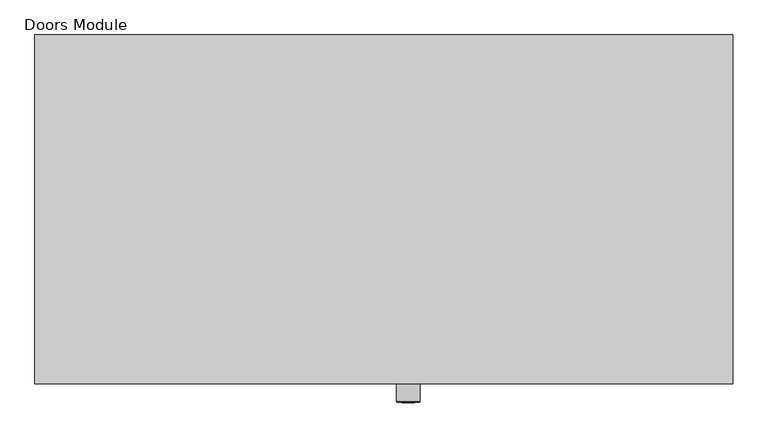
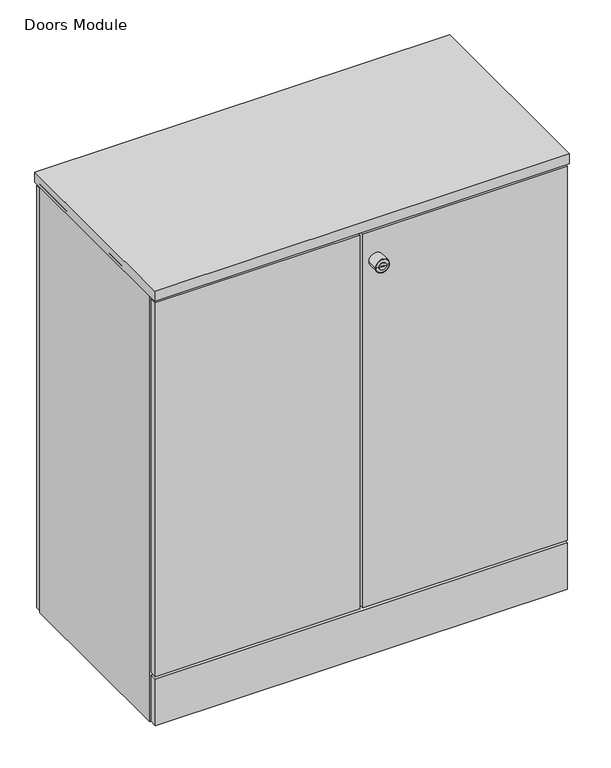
"""IFC4 building model written with IfcOpenShell, lengths in millimetres: furniture geometry, Furniture_Storage_Spacestor_SignatureStoragewall : Doors Module."""

from ifc_helpers import new_model, si_unit, point, frame, origin, origin_with_axes, place, context, project, spatial, polyline, circle_curve, ellipse_curve, trimmed, outline, extrude, source, transform, mapped, element, save
from ifc_brep_helpers import plane_surface, cylinder_surface, revolved_surface, advanced_brep


def doors_module_98f6794c(model_context):
    return source(origin(), model_context, "Body", "SolidModel", [
        extrude(outline(polyline([(996.5, 459.0), (3.5, 459.0), (3.5, 477.0), (996.5, 477.0), (996.5, 459.0)])), origin_with_axes(), (0.0, 0.0, 1.0), 1078.0),
        extrude(outline(polyline([(996.5, -18.0), (3.5, -18.0), (3.5, 0.0), (996.5, 0.0), (996.5, -18.0)])), origin_with_axes(), (0.0, 0.0, 1.0), 118.0),
        extrude(outline(polyline([(1000.0, -20.5), (0.0, -20.5), (0.0, 479.5), (1000.0, 479.5), (1000.0, -20.5)])), frame((0.0, 0.0, 1085.0), z_axis=(0.0, 0.0, 1.0), x_axis=(1.0, 0.0, 0.0)), (0.0, 0.0, 1.0), 25.5),
        extrude(outline(polyline([(1000.0, 0.0), (989.0, 0.0), (989.0, 459.0), (1000.0, 459.0), (1000.0, 0.0)])), origin_with_axes(), (0.0, 0.0, 1.0), 1092.5),
        extrude(outline(polyline([(11.0, 0.0), (0.0, 0.0), (0.0, 459.0), (11.0, 459.0), (11.0, 0.0)])), origin_with_axes(), (0.0, 0.0, 1.0), 1092.5),
        advanced_brep(
        [(552.0, -45.3116344, 1003.0), (518.0, -45.3116344, 1003.0), (518.0, -18.0, 1003.0), (552.0, -18.0, 1003.0), (535.0, -18.0, 1003.0), (543.9747319, -46.3150077, 1003.0), (526.0252681, -46.3150077, 1003.0), (519.0033734, -46.3150077, 1003.0), (550.9966266, -46.3150077, 1003.0), (543.9747319, -47.4703043, 1003.0), (526.0252681, -47.4703043, 1003.0), (539.8245152, -47.4703043, 1003.0), (539.8245152, -47.4703043, 1001.6366562), (530.1754848, -47.4703043, 1001.6366562), (530.1754848, -47.4703043, 1003.0), (530.1754848, -47.4703043, 1004.3633438), (539.8245152, -47.4703043, 1004.3633438), (530.1754848, -27.8604291, 1001.6366562), (539.8245152, -27.8604291, 1001.6366562), (539.8245152, -27.8604291, 1004.3633438), (530.1754848, -27.8604291, 1004.3633438)],
        [
            (0, 1, circle_curve(frame((535.0, -45.3116344, 1003.0), z_axis=(0.0, 1.0, 0.0), x_axis=(-1.0, 0.0, 0.0)), 17.0)),
            (1, 2),
            (2, 3, circle_curve(frame((535.0, -18.0, 1003.0), z_axis=(0.0, -1.0, 0.0), x_axis=(-1.0, 0.0, 0.0)), 17.0)),
            (3, 0),
            (1, 0, circle_curve(frame((535.0, -45.3116344, 1003.0), z_axis=(0.0, 1.0, 0.0), x_axis=(-1.0, 0.0, 0.0)), 17.0)),
            (3, 2, circle_curve(frame((535.0, -18.0, 1003.0), z_axis=(0.0, -1.0, 0.0), x_axis=(-1.0, 0.0, 0.0)), 17.0)),
            (2, 4),
            (4, 3),
            (5, 6, circle_curve(frame((535.0, -46.3150077, 1003.0), z_axis=(0.0, 1.0, 0.0), x_axis=(-1.0, 0.0, 0.0)), 8.9747319)),
            (6, 7),
            (7, 8, circle_curve(frame((535.0, -46.3150077, 1003.0), z_axis=(0.0, -1.0, 0.0), x_axis=(-1.0, 0.0, 0.0)), 15.9966266)),
            (8, 5),
            (6, 5, circle_curve(frame((535.0, -46.3150077, 1003.0), z_axis=(0.0, 1.0, 0.0), x_axis=(-1.0, 0.0, 0.0)), 8.9747319)),
            (8, 7, circle_curve(frame((535.0, -46.3150077, 1003.0), z_axis=(0.0, -1.0, 0.0), x_axis=(-1.0, 0.0, 0.0)), 15.9966266)),
            (0, 8, circle_curve(frame((550.9966266, -45.3116344, 1003.0), z_axis=(0.0, 0.0, -1.0), x_axis=(1.0, 0.0, 0.0)), 1.0033734)),
            (7, 1, circle_curve(frame((519.0033734, -45.3116344, 1003.0), z_axis=(0.0, 0.0, -1.0), x_axis=(-1.0, 0.0, 0.0)), 1.0033734)),
            (5, 9),
            (9, 10, circle_curve(frame((535.0, -47.4703043, 1003.0), z_axis=(0.0, 1.0, 0.0), x_axis=(-1.0, 0.0, 0.0)), 8.9747319)),
            (10, 6),
            (10, 9, circle_curve(frame((535.0, -47.4703043, 1003.0), z_axis=(0.0, 1.0, 0.0), x_axis=(-1.0, 0.0, 0.0)), 8.9747319)),
            (9, 11),
            (11, 12),
            (12, 13),
            (13, 14),
            (14, 10),
            (14, 15),
            (15, 16),
            (16, 11),
            (17, 18),
            (18, 19),
            (19, 20),
            (20, 17),
            (17, 13),
            (12, 18),
            (16, 19),
            (15, 20),
        ],
        [
            cylinder_surface(frame((535.0, -2627.0581012, 1003.0), z_axis=(0.0, -1.0, 0.0), x_axis=(-1.0, 0.0, 0.0)), 17.0),
            plane_surface(frame((535.0, -18.0, 1003.0), z_axis=(0.0, 1.0, 0.0), x_axis=(-1.0, 0.0, 0.0))),
            plane_surface(frame((535.0, -46.3150077, 1003.0), z_axis=(0.0, -1.0, 0.0), x_axis=(-1.0, 0.0, 0.0))),
            revolved_surface(trimmed(ellipse_curve(frame((519.0033734, -45.3116344, 1003.0), z_axis=(0.0, 0.0, 1.0), x_axis=(-1.0, 0.0, 0.0)), 1.0033734, 1.0033734), [point((518.0, -45.3116344, 1003.0))], [point((519.0033734, -46.3150077, 1003.0))], True, "CARTESIAN"), (535.0, -2627.0581012, 1003.0), (0.0, -1.0, 0.0)),
            cylinder_surface(frame((535.0, -2627.0581012, 1003.0), z_axis=(0.0, -1.0, 0.0), x_axis=(-1.0, 0.0, 0.0)), 8.9747319),
            plane_surface(frame((535.0, -47.4703043, 1003.0), z_axis=(0.0, -1.0, 0.0), x_axis=(-1.0, 0.0, 0.0))),
            plane_surface(frame((539.4565249, -27.8604291, 1001.6366562), z_axis=(0.0, -1.0, 0.0), x_axis=(-1.0, 0.0, 0.0))),
            plane_surface(frame((530.1754848, -49.2046383, 1001.6366562), z_axis=(0.0, 0.0, 1.0), x_axis=(0.0, 1.0, 0.0))),
            plane_surface(frame((539.8245152, -49.2046383, 1001.6366562), z_axis=(-1.0, 0.0, 0.0), x_axis=(0.0, 1.0, 0.0))),
            plane_surface(frame((539.8245152, -49.2046383, 1004.3633438), z_axis=(0.0, 0.0, -1.0), x_axis=(0.0, 1.0, 0.0))),
            plane_surface(frame((530.1754848, -49.2046383, 1004.3633438), z_axis=(1.0, 0.0, 0.0), x_axis=(0.0, 1.0, 0.0))),
        ],
        [
            (0, [[1, 2, 3, 4]]),
            (0, [[-2, 5, -4, 6]]),
            (1, [[-3, 7, 8]]),
            (1, [[-6, -8, -7]]),
            (2, [[9, 10, 11, 12]]),
            (2, [[-10, 13, -12, 14]]),
            (3, [[-1, 15, -11, 16]]),
            (3, [[-5, -16, -14, -15]]),
            (4, [[-9, 17, 18, 19]]),
            (4, [[-13, -19, 20, -17]]),
            (5, [[-18, 21, 22, 23, 24, 25]]),
            (5, [[-20, -25, 26, 27, 28, -21]]),
            (6, [[29, 30, 31, 32]]),
            (7, [[-29, 33, -23, 34]]),
            (8, [[-30, -34, -22, -28, 35]]),
            (9, [[-31, -35, -27, 36]]),
            (10, [[-32, -36, -26, -24, -33]]),
        ],
    ),
        extrude(outline(polyline([(3.5, -18.0), (3.5, 0.0), (496.5, 0.0), (496.5, -18.0), (3.5, -18.0)])), frame((0.0, 0.0, 125.0), z_axis=(0.0, 0.0, 1.0), x_axis=(1.0, 0.0, 0.0)), (0.0, 0.0, 1.0), 953.0),
        extrude(outline(polyline([(996.5, -18.0), (503.5, -18.0), (503.5, 0.0), (996.5, 0.0), (996.5, -18.0)])), frame((0.0, 0.0, 125.0), z_axis=(0.0, 0.0, 1.0), x_axis=(1.0, 0.0, 0.0)), (0.0, 0.0, 1.0), 953.0),
        extrude(outline(polyline([(989.0, 0.0), (11.0, 0.0), (11.0, 459.0), (989.0, 459.0), (989.0, 0.0)])), frame((0.0, 0.0, 110.5), z_axis=(0.0, 0.0, 1.0), x_axis=(1.0, 0.0, 0.0)), (0.0, 0.0, 1.0), 22.0),
        extrude(outline(polyline([(989.0, 0.0), (11.0, 0.0), (11.0, 459.0), (989.0, 459.0), (989.0, 0.0)])), frame((0.0, 0.0, 1070.0), z_axis=(0.0, 0.0, 1.0), x_axis=(1.0, 0.0, 0.0)), (0.0, 0.0, 1.0), 22.0),
    ])


if __name__ == "__main__":
    model = new_model("IFC4")
    model_context = context("Model", 3, world=origin())
    ifc_project = project(units=[si_unit("LENGTHUNIT", "METRE", prefix="MILLI")], contexts=[model_context])
    site = spatial("IfcSite", under=ifc_project)
    building = spatial("IfcBuilding", under=site)
    placement = place(None, origin())
    doors_module_shape = doors_module_98f6794c(model_context)
    element("IfcFurniture", 1, ObjectType="Furniture_Storage_Spacestor_SignatureStoragewall : Doors Module", at=placement, inside=building, context=model_context, shape_type="MappedRepresentation", body=[
        mapped(doors_module_shape, transform((0.0, 0.0, 0.0), x_axis=(1.0, 0.0, 0.0), y_axis=(0.0, 1.0, 0.0), z_axis=(0.0, 0.0, 1.0))),
    ])
    save(model, "model.ifc")
